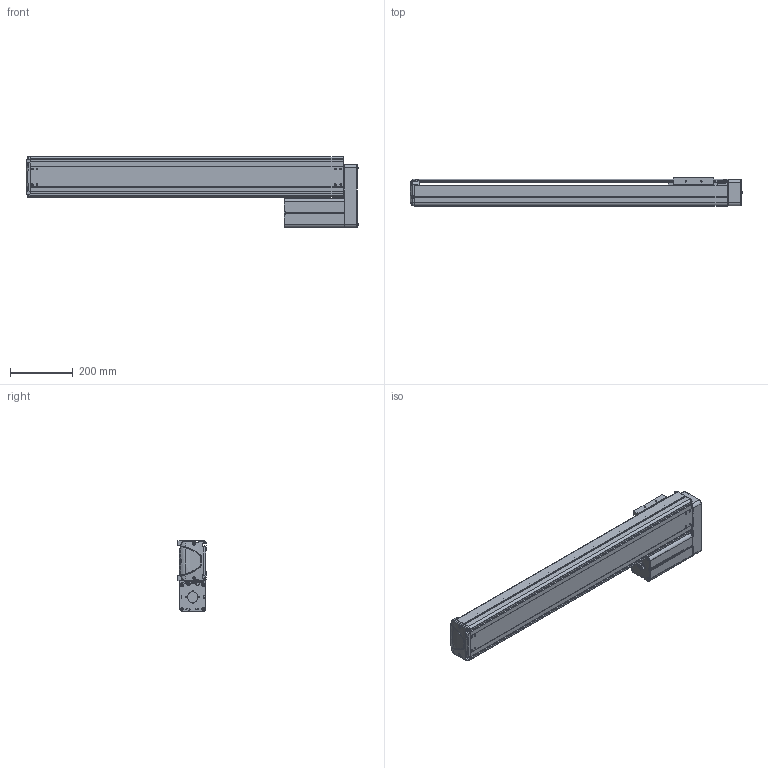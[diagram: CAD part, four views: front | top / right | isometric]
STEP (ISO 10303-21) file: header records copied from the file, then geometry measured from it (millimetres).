
FILE_DESCRIPTION((''),'2;1');
FILE_NAME('BE30E-UL-M_B-80_IGS_PRT','2017-06-17T',(' '),(''),'PRO/ENGINEER BY PARAMETRIC TECHNOLOGY CORPORATION, 2015030','PRO/ENGINEER BY PARAMETRIC TECHNOLOGY CORPORATION, 2015030','');
FILE_SCHEMA(('CONFIG_CONTROL_DESIGN'));
Length unit declared in the file: millimetre
Products named in the file (1): BE30E-UL-M_B-80_IGS_PRT
Bounding box: 1061.9 x 89.8 x 227 mm (x, y, z)
Volume: 3561684.3 mm3; surface area: 1553558.4 mm2
Topology: 2 solids, 123 shells, 2029 faces, 5460 edges, 3548 vertices
Faces by surface type: plane 990, cylinder 847, cone 103, torus 37, bspline 28, sphere 24
Entity records: 65625 total; most frequent: CARTESIAN_POINT 13872, DIRECTION 10943, ORIENTED_EDGE 10385, EDGE_CURVE 5422, AXIS2_PLACEMENT_3D 3860, VERTEX_POINT 3548, VECTOR 3223, LINE 3223
